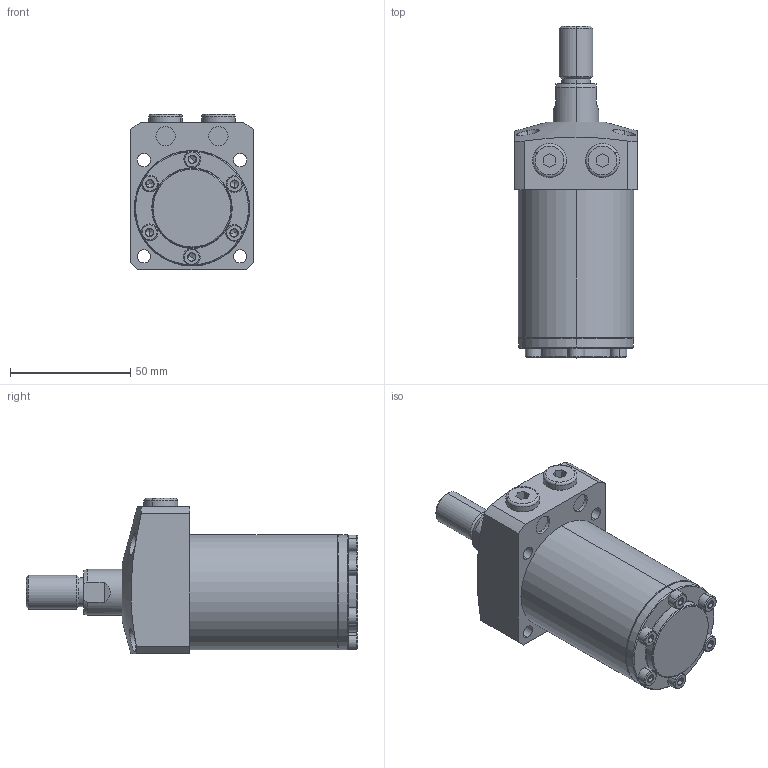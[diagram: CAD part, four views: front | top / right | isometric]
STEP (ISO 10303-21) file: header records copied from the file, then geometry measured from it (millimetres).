
FILE_DESCRIPTION (( 'STEP AP203' ), '1' );
FILE_NAME ('680480-CT-060.STEP', '2019-11-06T04:45:56', ( '微软用户' ), ( '微软中国' ), 'SwSTEP 2.0', 'SolidWorks 2014', '' );
FILE_SCHEMA (( 'CONFIG_CONTROL_DESIGN' ));
Length unit declared in the file: millimetre
Products named in the file (6): 葩璃 680480-60-12^680480-CT-060; 680480-CT-060; 葩璃 680480-CA-60-1^680480-CT-060; 葩璃 680480-CA-15-5^680480-CT-060; 葩璃 680480-CA-15-3^680480-CT-060; 葩璃 680480-CA-15-4^680480-CT-060
Assembly tree (11 placements, depth 2):
  680480-CT-060
    葩璃 680480-CA-60-1^680480-CT-060
    葩璃 680480-CA-15-3^680480-CT-060
    葩璃 680480-CA-15-4^680480-CT-060  x6
    葩璃 680480-CA-15-5^680480-CT-060  x2
    葩璃 680480-60-12^680480-CT-060
Bounding box: 51 x 138 x 64.5 mm (x, y, z)
Volume: 217812.7 mm3; surface area: 37908.6 mm2
Topology: 11 solids, 11 shells, 342 faces, 668 edges, 365 vertices
Faces by surface type: plane 139, cone 97, cylinder 90, torus 16
Entity records: 5549 total; most frequent: CARTESIAN_POINT 1137, DIRECTION 839, ORIENTED_EDGE 684, AXIS2_PLACEMENT_3D 350, EDGE_CURVE 342, VERTEX_POINT 208, EDGE_LOOP 198, CIRCLE 175
